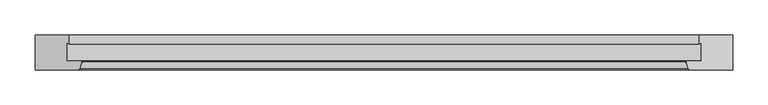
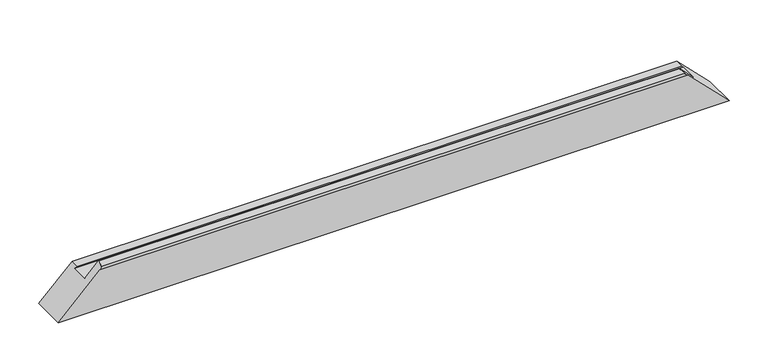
"""IFC4 building model written with IfcOpenShell, lengths in millimetres: proxy geometry, Weiku - Montante - Caixilho 02.2.01.005 : Weiku - Montante - Caixilho 02.2.01.005."""

from ifc_helpers import new_model, si_unit, frame, origin, place, context, project, spatial, ellipse_curve, source, transform, mapped, element, save
from ifc_brep_helpers import plane_surface, cylinder_surface, advanced_brep


def generic_models_246a22d1(model_context):
    return source(origin(), model_context, "Body", "AdvancedBrep", [
        advanced_brep(
        [(-451.0, 12.5, 46.0), (-430.8909676, 12.5, 66.1090324), (430.8909676, 12.5, 66.1090324), (451.0, 12.5, 46.0), (-451.0, 37.8314286, 46.0), (451.0, 37.8314286, 46.0), (-448.0, 37.027581, 49.0), (448.0, 37.027581, 49.0), (-448.0, 50.0, 49.0), (448.0, 50.0, 49.0), (497.0, 50.0, 0.0), (-497.0, 50.0, 0.0), (497.0, 0.0, 0.0), (-497.0, 0.0, 0.0), (435.4997332, 0.0, 61.5002668), (-435.4997332, 0.0, 61.5002668), (-430.118227, 11.4929448, 66.881773), (-432.6019557, 2.2235429, 64.3980443), (432.6019557, 2.2235429, 64.3980443), (430.118227, 11.4929448, 66.881773)],
        [
            (0, 1),
            (1, 2),
            (2, 3),
            (3, 0),
            (4, 0),
            (3, 5),
            (5, 4),
            (6, 4),
            (5, 7),
            (7, 6),
            (8, 6),
            (7, 9),
            (9, 8),
            (10, 11),
            (11, 8),
            (9, 10),
            (10, 12),
            (12, 13),
            (13, 11),
            (12, 14),
            (14, 15),
            (15, 13),
            (16, 17),
            (17, 18),
            (18, 19),
            (19, 16),
            (15, 17, ellipse_curve(frame((-435.4997332, 3.0, 61.5002668), z_axis=(-0.707106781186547, 0.0, 0.707106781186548), x_axis=(-0.7071067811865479, 0.0, -0.707106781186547)), 4.2426407, 3.0)),
            (16, 1, ellipse_curve(frame((-430.8909676, 11.7, 66.1090324), z_axis=(-0.707106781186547, 0.0, 0.707106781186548), x_axis=(-0.7071067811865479, 0.0, -0.707106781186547)), 1.1313708, 0.8)),
            (2, 19, ellipse_curve(frame((430.8909676, 11.7, 66.1090324), z_axis=(0.707106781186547, 0.0, 0.7071067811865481), x_axis=(-0.7071067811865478, 0.0, 0.707106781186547)), 1.1313708, 0.8)),
            (18, 14, ellipse_curve(frame((435.4997332, 3.0, 61.5002668), z_axis=(0.707106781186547, 0.0, 0.7071067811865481), x_axis=(-0.7071067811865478, 0.0, 0.707106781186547)), 4.2426407, 3.0)),
        ],
        [
            plane_surface(frame((-497.0, 12.5, 66.1090324), z_axis=(0.0, 1.0, 0.0), x_axis=(1.0, 0.0, 0.0))),
            plane_surface(frame((-497.0, 12.5, 46.0), z_axis=(0.0, 0.0, 1.0), x_axis=(1.0, 0.0, 0.0))),
            plane_surface(frame((-497.0, 37.8314286, 46.0), z_axis=(0.0, -0.9659258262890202, -0.2588190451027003), x_axis=(1.0, 0.0, 0.0))),
            plane_surface(frame((-497.0, 37.027581, 49.0), z_axis=(0.0, 0.0, 1.0), x_axis=(1.0, 0.0, 0.0))),
            plane_surface(frame((-497.0, 50.0, 49.0), z_axis=(0.0, 1.0, 0.0), x_axis=(1.0, 0.0, 0.0))),
            plane_surface(frame((-497.0, 50.0, 0.0), z_axis=(0.0, 0.0, -1.0), x_axis=(1.0, 0.0, 0.0))),
            plane_surface(frame((-497.0, 0.0, 0.0), z_axis=(0.0, -1.0, 0.0), x_axis=(1.0, 0.0, 0.0))),
            plane_surface(frame((-497.0, 2.2235429, 64.3980443), z_axis=(0.0, -0.2588190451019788, 0.9659258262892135), x_axis=(1.0, 0.0, 0.0))),
            plane_surface(frame((-567.0, -15.0, -70.0), z_axis=(-0.707106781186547, 0.0, 0.707106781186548), x_axis=(0.0, 1.0, 0.0))),
            plane_surface(frame((427.0, -15.0, 70.0), z_axis=(0.707106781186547, 0.0, 0.7071067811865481), x_axis=(0.0, 1.0, 0.0))),
            cylinder_surface(frame((-497.0, 11.7, 66.1090324), z_axis=(-1.0, 0.0, 0.0), x_axis=(0.0, 1.0, 0.0)), 0.8),
            cylinder_surface(frame((-497.0, 3.0, 61.5002668), z_axis=(-1.0, 0.0, 0.0), x_axis=(0.0, 1.0, 0.0)), 3.0),
        ],
        [
            (0, [[1, 2, 3, 4]]),
            (1, [[5, -4, 6, 7]]),
            (2, [[8, -7, 9, 10]]),
            (3, [[11, -10, 12, 13]]),
            (4, [[14, 15, -13, 16]]),
            (5, [[-14, 17, 18, 19]]),
            (6, [[-18, 20, 21, 22]]),
            (7, [[23, 24, 25, 26]]),
            (8, [[-1, -5, -8, -11, -15, -19, -22, 27, -23, 28]]),
            (9, [[-3, 29, -25, 30, -20, -17, -16, -12, -9, -6]]),
            (10, [[-28, -26, -29, -2]]),
            (11, [[-27, -21, -30, -24]]),
        ],
    ),
    ])


if __name__ == "__main__":
    model = new_model("IFC4")
    model_context = context("Model", 3, world=origin())
    ifc_project = project(units=[si_unit("LENGTHUNIT", "METRE", prefix="MILLI")], contexts=[model_context])
    site = spatial("IfcSite", under=ifc_project)
    building = spatial("IfcBuilding", under=site)
    placement = place(None, origin())
    generic_models_shape = generic_models_246a22d1(model_context)
    element("IfcBuildingElementProxy", 1, Name="Weiku - Montante - Caixilho 02.2.01.005 : Weiku - Montante - Caixilho 02.2.01.005", ObjectType="Weiku - Montante - Caixilho 02.2.01.005 : Weiku - Montante - Caixilho 02.2.01.005", at=placement, inside=building, context=model_context, shape_type="MappedRepresentation", body=[
        mapped(generic_models_shape, transform((0.0, 0.0, 0.0), x_axis=(1.0, 0.0, 0.0), y_axis=(0.0, 1.0, 0.0), z_axis=(0.0, 0.0, 1.0))),
    ])
    save(model, "model.ifc")
